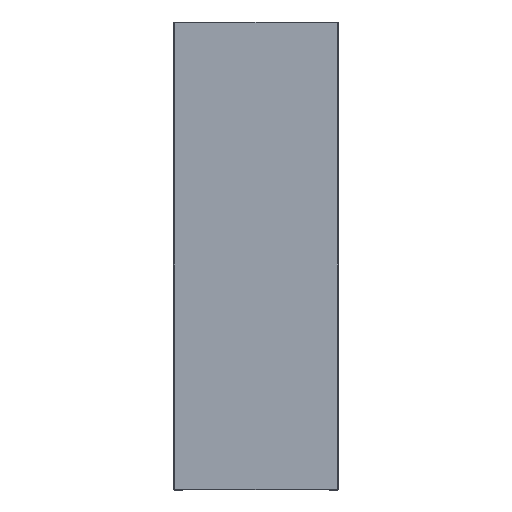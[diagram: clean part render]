
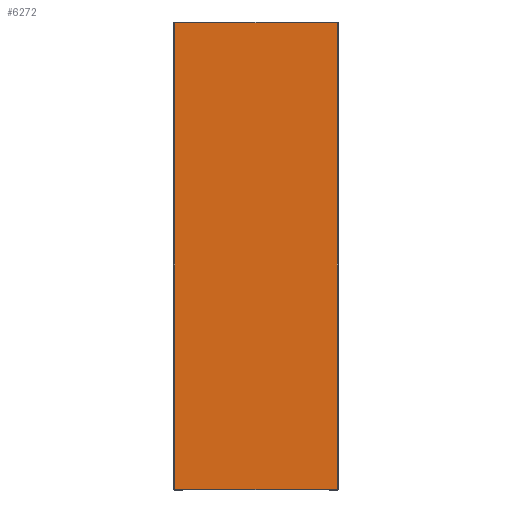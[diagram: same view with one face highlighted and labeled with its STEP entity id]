
A CAD part, top view. The second image highlights one B-rep face of the part: STEP entity #6272.
In plain terms, the highlighted planar face has unit normal (0, 0, 1).
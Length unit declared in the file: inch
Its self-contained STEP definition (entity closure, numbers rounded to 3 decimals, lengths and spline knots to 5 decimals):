
#27=DIRECTION('',(1.,0.,0.));
#28=VECTOR('',#27,23.276);
#29=CARTESIAN_POINT('',(-11.638,33.388,0.));
#30=LINE('',#29,#28);
#2224=DIRECTION('',(0.,1.,0.));
#2225=VECTOR('',#2224,66.776);
#2226=CARTESIAN_POINT('',(-11.638,-33.388,0.));
#2227=LINE('',#2226,#2225);
#3079=DIRECTION('',(-1.,0.,0.));
#3080=VECTOR('',#3079,23.276);
#3081=CARTESIAN_POINT('',(11.638,-33.388,0.));
#3082=LINE('',#3081,#3080);
#4598=DIRECTION('',(0.,-1.,0.));
#4599=VECTOR('',#4598,66.776);
#4600=CARTESIAN_POINT('',(11.638,33.388,0.));
#4601=LINE('',#4600,#4599);
#5373=CARTESIAN_POINT('',(-11.638,-33.388,0.));
#5374=CARTESIAN_POINT('',(-11.638,33.388,0.));
#5375=VERTEX_POINT('',#5373);
#5376=VERTEX_POINT('',#5374);
#5381=CARTESIAN_POINT('',(11.638,33.388,0.));
#5382=CARTESIAN_POINT('',(11.638,-33.388,0.));
#5383=VERTEX_POINT('',#5381);
#5384=VERTEX_POINT('',#5382);
#6257=CARTESIAN_POINT('',(0.,0.,0.));
#6258=DIRECTION('',(0.,0.,1.));
#6259=DIRECTION('',(1.,0.,0.));
#6260=AXIS2_PLACEMENT_3D('',#6257,#6258,#6259);
#6261=PLANE('',#6260);
#6263=ORIENTED_EDGE('',*,*,#6262,.T.);
#6265=ORIENTED_EDGE('',*,*,#6264,.T.);
#6267=ORIENTED_EDGE('',*,*,#6266,.T.);
#6269=ORIENTED_EDGE('',*,*,#6268,.T.);
#6270=EDGE_LOOP('',(#6263,#6265,#6267,#6269));
#6271=FACE_OUTER_BOUND('',#6270,.F.);
#6262=EDGE_CURVE('',#5376,#5383,#30,.T.);
#6264=EDGE_CURVE('',#5383,#5384,#4601,.T.);
#6266=EDGE_CURVE('',#5384,#5375,#3082,.T.);
#6268=EDGE_CURVE('',#5375,#5376,#2227,.T.);
#6272=ADVANCED_FACE('',(#6271),#6261,.T.);
